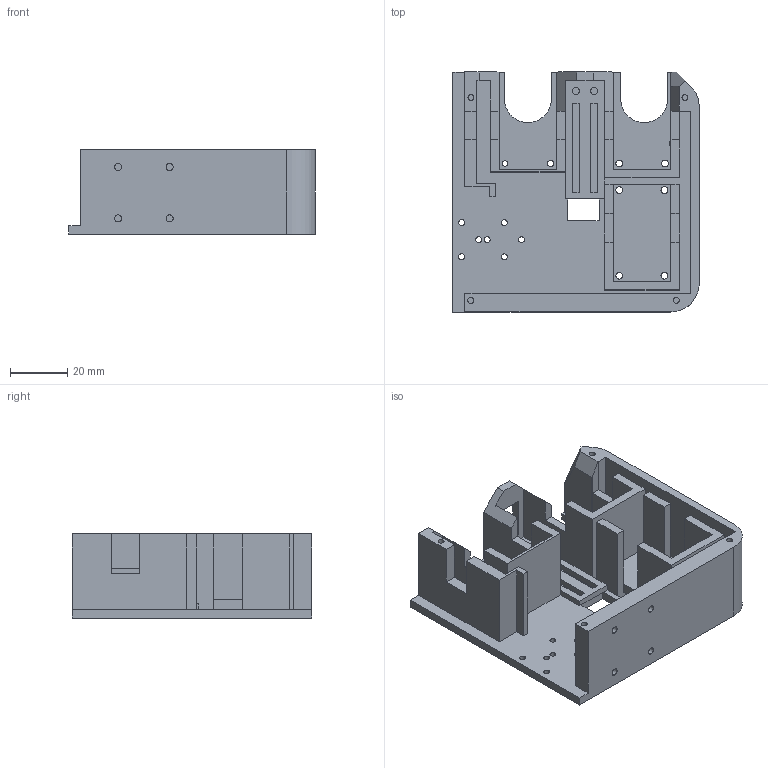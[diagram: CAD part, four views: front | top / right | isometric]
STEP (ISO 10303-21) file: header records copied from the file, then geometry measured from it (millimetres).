
FILE_DESCRIPTION (( 'STEP AP214' ), '1' );
FILE_NAME ('Plam1.STEP', '2026-09-16T05:39:29', ( '' ), ( '' ), 'SwSTEP 2.0', 'SolidWorks 2024', '' );
FILE_SCHEMA (( 'AUTOMOTIVE_DESIGN' ));
Length unit declared in the file: millimetre
Products named in the file (2): gx16手掌-1_默认; Plam1
Assembly tree (1 placements, depth 2):
  Plam1
    gx16手掌-1_默认
Bounding box: 86.3 x 84 x 29.5 mm (x, y, z)
Volume: 63791.6 mm3; surface area: 41878.2 mm2
Topology: 2 solids, 2 shells, 242 faces, 648 edges, 429 vertices
Faces by surface type: plane 151, cylinder 91
Entity records: 7736 total; most frequent: DIRECTION 1328, CARTESIAN_POINT 1323, ORIENTED_EDGE 1296, EDGE_CURVE 648, VECTOR 460, LINE 460, AXIS2_PLACEMENT_3D 434, VERTEX_POINT 429
